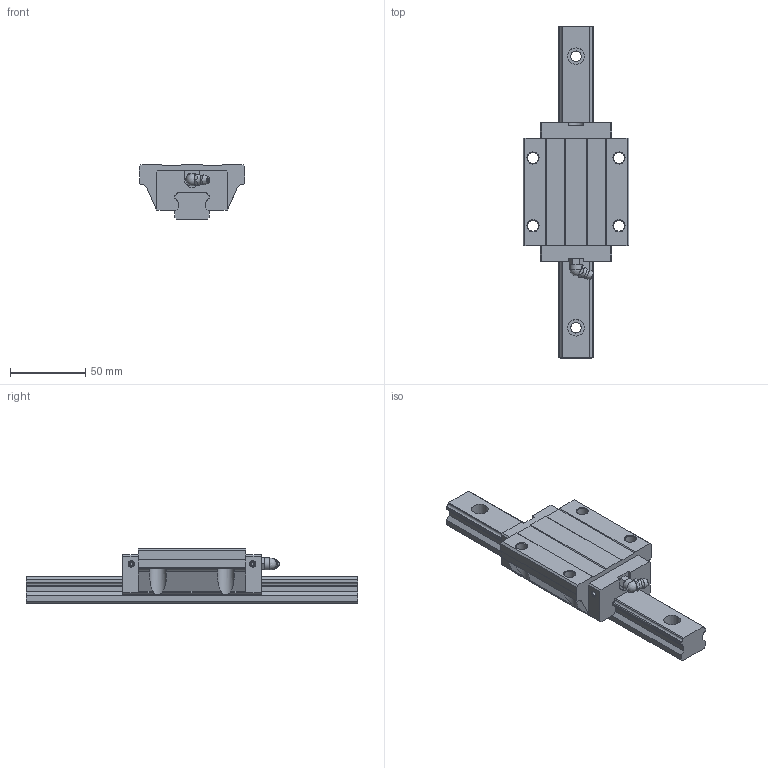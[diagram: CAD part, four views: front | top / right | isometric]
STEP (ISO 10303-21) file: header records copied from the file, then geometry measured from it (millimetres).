
FILE_DESCRIPTION(/* description */ (''),/* implementation_level */ '2;1');
FILE_NAME(/* name */ 'SME25-EA',/* time_stamp */ '2008-10-06T10:21:12+08:00',/* author */ (''),/* organization */ (''),/* preprocessor_version */ 'ST-DEVELOPER v11',/* originating_system */ 'UGS - NX 5.0',/* authorisation */ '');
FILE_SCHEMA (('AUTOMOTIVE_DESIGN { 1 0 10303 214 1 1 1 1 }'));
Length unit declared in the file: millimetre
Products named in the file (1): jillBD1Caljp
Bounding box: 70 x 220 x 36 mm (x, y, z)
Volume: 206493.9 mm3; surface area: 44884.6 mm2
Topology: 3 solids, 3 shells, 209 faces, 555 edges, 366 vertices
Faces by surface type: plane 131, cylinder 59, cone 9, torus 7, sphere 2, bspline 1
Full cylindrical faces by diameter (mm): 2 x4, 3.3 x4, 6.5 x2, 7 x4, 7.2 x4, 8 x1, 11 x4
Entity records: 6607 total; most frequent: CARTESIAN_POINT 1238, DIRECTION 1058, ORIENTED_EDGE 1010, EDGE_CURVE 505, AXIS2_PLACEMENT_3D 364, VERTEX_POINT 352, LINE 330, VECTOR 330
